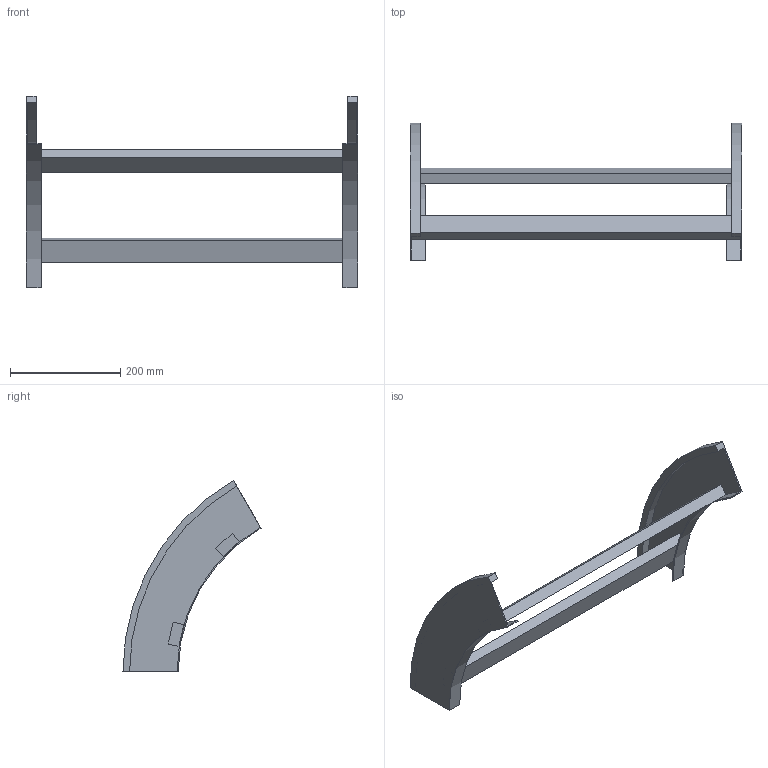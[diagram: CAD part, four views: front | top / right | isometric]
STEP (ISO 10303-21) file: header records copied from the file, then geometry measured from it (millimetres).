
FILE_DESCRIPTION (( 'STEP AP214' ), '1' );
FILE_NAME ('B2_41B3D600.step', '2025-02-21T14:57:19', ( '' ), ( '' ), 'SwSTEP 2.0', 'SolidWorks 2023', '' );
FILE_SCHEMA (( 'AUTOMOTIVE_DESIGN' ));
Length unit declared in the file: millimetre
Products named in the file (3): B2_LONGH.DISCESA_60°_H100_R300; TRAVERSINO_600; B2_41B3D600
Assembly tree (4 placements, depth 2):
  B2_41B3D600
    B2_LONGH.DISCESA_60°_H100_R300  x2
    TRAVERSINO_600  x2
Bounding box: 600 x 250 x 346.41 mm (x, y, z)
Volume: 1302085.1 mm3; surface area: 356706.6 mm2
Topology: 4 solids, 4 shells, 32 faces, 72 edges, 48 vertices
Faces by surface type: plane 24, cylinder 8
Entity records: 552 total; most frequent: DIRECTION 90, CARTESIAN_POINT 83, ORIENTED_EDGE 72, EDGE_CURVE 36, AXIS2_PLACEMENT_3D 31, LINE 28, VECTOR 28, VERTEX_POINT 24
